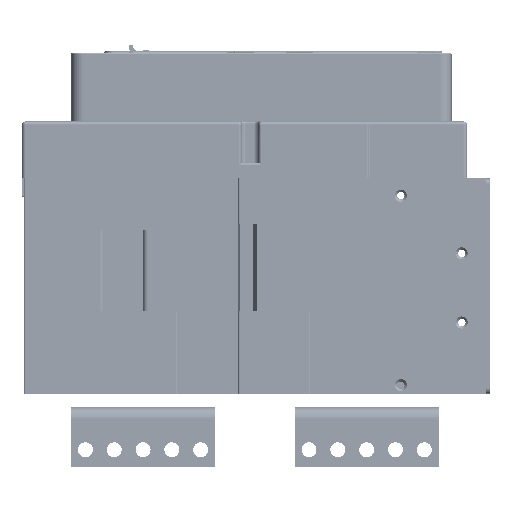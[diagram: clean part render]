
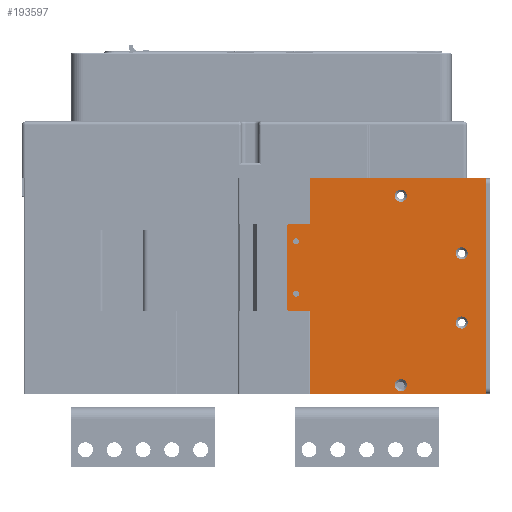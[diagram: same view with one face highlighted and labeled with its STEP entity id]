
A CAD part, left-side view. The second image highlights one B-rep face of the part: STEP entity #193597.
In plain terms, the highlighted planar face has unit normal (-1, 0, 0) as drawn and (1, 0, 0) by its records, which use the part's own axes.
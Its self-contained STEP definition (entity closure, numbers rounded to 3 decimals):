
#192635=CARTESIAN_POINT('',(3.2,158.7,91.4));
#192636=DIRECTION('',(-1.,0.,0.));
#192637=DIRECTION('',(0.,0.,1.));
#192638=AXIS2_PLACEMENT_3D('',#192635,#192636,#192637);
#192640=DIRECTION('',(0.,1.,0.));
#192641=VECTOR('',#192640,13.7);
#192642=CARTESIAN_POINT('',(3.2,160.7,21.6));
#192643=LINE('',#192642,#192641);
#192644=CARTESIAN_POINT('',(3.2,174.4,19.6));
#192645=DIRECTION('',(-1.,0.,0.));
#192646=DIRECTION('',(0.,0.,1.));
#192647=AXIS2_PLACEMENT_3D('',#192644,#192645,#192646);
#192649=DIRECTION('',(0.,0.,-1.));
#192650=VECTOR('',#192649,71.4);
#192651=CARTESIAN_POINT('',(3.2,176.4,19.6));
#192652=LINE('',#192651,#192650);
#192653=CARTESIAN_POINT('',(3.2,174.4,-51.8));
#192654=DIRECTION('',(-1.,0.,0.));
#192655=DIRECTION('',(0.,1.,0.));
#192656=AXIS2_PLACEMENT_3D('',#192653,#192654,#192655);
#192658=DIRECTION('',(0.,0.,-1.));
#192659=VECTOR('',#192658,37.6);
#192660=CARTESIAN_POINT('',(3.2,160.7,-53.8));
#192661=LINE('',#192660,#192659);
#192662=CARTESIAN_POINT('',(3.2,158.7,-91.4));
#192663=DIRECTION('',(-1.,0.,0.));
#192664=DIRECTION('',(0.,1.,0.));
#192665=AXIS2_PLACEMENT_3D('',#192662,#192663,#192664);
#192667=DIRECTION('',(0.,-1.,0.));
#192668=VECTOR('',#192667,155.);
#192669=CARTESIAN_POINT('',(3.2,158.7,-93.4));
#192670=LINE('',#192669,#192668);
#192671=CARTESIAN_POINT('',(3.2,168.2,6.6));
#192672=DIRECTION('',(1.,0.,0.));
#192673=DIRECTION('',(0.,0.,-1.));
#192674=AXIS2_PLACEMENT_3D('',#192671,#192672,#192673);
#192676=CARTESIAN_POINT('',(3.2,168.2,6.6));
#192677=DIRECTION('',(1.,0.,0.));
#192678=DIRECTION('',(0.,0.,1.));
#192679=AXIS2_PLACEMENT_3D('',#192676,#192677,#192678);
#192681=CARTESIAN_POINT('',(3.2,168.2,-38.8));
#192682=DIRECTION('',(1.,0.,0.));
#192683=DIRECTION('',(0.,0.,-1.));
#192684=AXIS2_PLACEMENT_3D('',#192681,#192682,#192683);
#192686=CARTESIAN_POINT('',(3.2,168.2,-38.8));
#192687=DIRECTION('',(1.,0.,0.));
#192688=DIRECTION('',(0.,0.,1.));
#192689=AXIS2_PLACEMENT_3D('',#192686,#192687,#192688);
#192691=CARTESIAN_POINT('',(3.2,77.4,-78.4));
#192692=DIRECTION('',(1.,0.,0.));
#192693=DIRECTION('',(0.,0.,-1.));
#192694=AXIS2_PLACEMENT_3D('',#192691,#192692,#192693);
#192696=CARTESIAN_POINT('',(3.2,77.4,-78.4));
#192697=DIRECTION('',(1.,0.,0.));
#192698=DIRECTION('',(0.,0.,1.));
#192699=AXIS2_PLACEMENT_3D('',#192696,#192697,#192698);
#192701=CARTESIAN_POINT('',(3.2,77.4,86.));
#192702=DIRECTION('',(1.,0.,0.));
#192703=DIRECTION('',(0.,0.,1.));
#192704=AXIS2_PLACEMENT_3D('',#192701,#192702,#192703);
#192706=CARTESIAN_POINT('',(3.2,77.4,86.));
#192707=DIRECTION('',(1.,0.,0.));
#192708=DIRECTION('',(0.,0.,-1.));
#192709=AXIS2_PLACEMENT_3D('',#192706,#192707,#192708);
#192711=CARTESIAN_POINT('',(3.2,24.5,31.6));
#192712=DIRECTION('',(1.,0.,0.));
#192713=DIRECTION('',(0.,0.,1.));
#192714=AXIS2_PLACEMENT_3D('',#192711,#192712,#192713);
#192716=CARTESIAN_POINT('',(3.2,24.5,31.6));
#192717=DIRECTION('',(1.,0.,0.));
#192718=DIRECTION('',(0.,0.,-1.));
#192719=AXIS2_PLACEMENT_3D('',#192716,#192717,#192718);
#192721=CARTESIAN_POINT('',(3.2,24.5,-28.4));
#192722=DIRECTION('',(1.,0.,0.));
#192723=DIRECTION('',(0.,0.,1.));
#192724=AXIS2_PLACEMENT_3D('',#192721,#192722,#192723);
#192726=CARTESIAN_POINT('',(3.2,24.5,-28.4));
#192727=DIRECTION('',(1.,0.,0.));
#192728=DIRECTION('',(0.,0.,-1.));
#192729=AXIS2_PLACEMENT_3D('',#192726,#192727,#192728);
#192731=DIRECTION('',(0.,0.,-1.));
#192732=VECTOR('',#192731,186.8);
#192733=CARTESIAN_POINT('',(3.2,3.7,93.4));
#192734=LINE('',#192733,#192732);
#192932=DIRECTION('',(0.,-1.,0.));
#192933=VECTOR('',#192932,155.);
#192934=CARTESIAN_POINT('',(3.2,158.7,93.4));
#192935=LINE('',#192934,#192933);
#192961=DIRECTION('',(0.,0.,1.));
#192962=VECTOR('',#192961,69.8);
#192963=CARTESIAN_POINT('',(3.2,160.7,21.6));
#192964=LINE('',#192963,#192962);
#192993=DIRECTION('',(0.,1.,0.));
#192994=VECTOR('',#192993,13.7);
#192995=CARTESIAN_POINT('',(3.2,160.7,-53.8));
#192996=LINE('',#192995,#192994);
#193215=CARTESIAN_POINT('',(3.2,3.7,-93.4));
#193216=VERTEX_POINT('',#193215);
#193217=CARTESIAN_POINT('',(3.2,158.7,-93.4));
#193218=VERTEX_POINT('',#193217);
#193267=CARTESIAN_POINT('',(3.2,168.2,9.2));
#193268=VERTEX_POINT('',#193267);
#193269=CARTESIAN_POINT('',(3.2,168.2,4.));
#193270=VERTEX_POINT('',#193269);
#193271=CARTESIAN_POINT('',(3.2,3.7,93.4));
#193272=VERTEX_POINT('',#193271);
#193273=CARTESIAN_POINT('',(3.2,158.7,93.4));
#193274=VERTEX_POINT('',#193273);
#193275=CARTESIAN_POINT('',(3.2,160.7,91.4));
#193276=VERTEX_POINT('',#193275);
#193277=CARTESIAN_POINT('',(3.2,160.7,21.6));
#193278=VERTEX_POINT('',#193277);
#193279=CARTESIAN_POINT('',(3.2,174.4,21.6));
#193280=VERTEX_POINT('',#193279);
#193281=CARTESIAN_POINT('',(3.2,176.4,19.6));
#193282=VERTEX_POINT('',#193281);
#193283=CARTESIAN_POINT('',(3.2,176.4,-51.8));
#193284=VERTEX_POINT('',#193283);
#193285=CARTESIAN_POINT('',(3.2,174.4,-53.8));
#193286=VERTEX_POINT('',#193285);
#193287=CARTESIAN_POINT('',(3.2,160.7,-53.8));
#193288=VERTEX_POINT('',#193287);
#193289=CARTESIAN_POINT('',(3.2,160.7,-91.4));
#193290=VERTEX_POINT('',#193289);
#193291=CARTESIAN_POINT('',(3.2,168.2,-41.4));
#193292=CARTESIAN_POINT('',(3.2,168.2,-36.2));
#193293=VERTEX_POINT('',#193291);
#193294=VERTEX_POINT('',#193292);
#193295=CARTESIAN_POINT('',(3.2,77.4,-83.65));
#193296=CARTESIAN_POINT('',(3.2,77.4,-73.15));
#193297=VERTEX_POINT('',#193295);
#193298=VERTEX_POINT('',#193296);
#193299=CARTESIAN_POINT('',(3.2,77.4,91.25));
#193300=CARTESIAN_POINT('',(3.2,77.4,80.75));
#193301=VERTEX_POINT('',#193299);
#193302=VERTEX_POINT('',#193300);
#193303=CARTESIAN_POINT('',(3.2,24.5,36.85));
#193304=CARTESIAN_POINT('',(3.2,24.5,26.35));
#193305=VERTEX_POINT('',#193303);
#193306=VERTEX_POINT('',#193304);
#193307=CARTESIAN_POINT('',(3.2,24.5,-23.15));
#193308=CARTESIAN_POINT('',(3.2,24.5,-33.65));
#193309=VERTEX_POINT('',#193307);
#193310=VERTEX_POINT('',#193308);
#193532=CARTESIAN_POINT('',(3.2,3.2,-93.4));
#193533=DIRECTION('',(1.,0.,0.));
#193534=DIRECTION('',(0.,1.,0.));
#193535=AXIS2_PLACEMENT_3D('',#193532,#193533,#193534);
#193536=PLANE('',#193535);
#193538=ORIENTED_EDGE('',*,*,#193537,.F.);
#193540=ORIENTED_EDGE('',*,*,#193539,.F.);
#193542=ORIENTED_EDGE('',*,*,#193541,.T.);
#193544=ORIENTED_EDGE('',*,*,#193543,.F.);
#193546=ORIENTED_EDGE('',*,*,#193545,.T.);
#193548=ORIENTED_EDGE('',*,*,#193547,.T.);
#193550=ORIENTED_EDGE('',*,*,#193549,.T.);
#193552=ORIENTED_EDGE('',*,*,#193551,.T.);
#193554=ORIENTED_EDGE('',*,*,#193553,.F.);
#193556=ORIENTED_EDGE('',*,*,#193555,.T.);
#193557=ORIENTED_EDGE('',*,*,#193523,.T.);
#193558=ORIENTED_EDGE('',*,*,#193428,.T.);
#193559=EDGE_LOOP('',(#193538,#193540,#193542,#193544,#193546,#193548,#193550,
#193552,#193554,#193556,#193557,#193558));
#193560=FACE_OUTER_BOUND('',#193559,.F.);
#193562=ORIENTED_EDGE('',*,*,#193561,.T.);
#193564=ORIENTED_EDGE('',*,*,#193563,.T.);
#193565=EDGE_LOOP('',(#193562,#193564));
#193566=FACE_BOUND('',#193565,.F.);
#193568=ORIENTED_EDGE('',*,*,#193567,.T.);
#193570=ORIENTED_EDGE('',*,*,#193569,.T.);
#193571=EDGE_LOOP('',(#193568,#193570));
#193572=FACE_BOUND('',#193571,.F.);
#193574=ORIENTED_EDGE('',*,*,#193573,.T.);
#193576=ORIENTED_EDGE('',*,*,#193575,.T.);
#193577=EDGE_LOOP('',(#193574,#193576));
#193578=FACE_BOUND('',#193577,.F.);
#193580=ORIENTED_EDGE('',*,*,#193579,.T.);
#193582=ORIENTED_EDGE('',*,*,#193581,.T.);
#193583=EDGE_LOOP('',(#193580,#193582));
#193584=FACE_BOUND('',#193583,.F.);
#193586=ORIENTED_EDGE('',*,*,#193585,.T.);
#193588=ORIENTED_EDGE('',*,*,#193587,.T.);
#193589=EDGE_LOOP('',(#193586,#193588));
#193590=FACE_BOUND('',#193589,.F.);
#193592=ORIENTED_EDGE('',*,*,#193591,.T.);
#193594=ORIENTED_EDGE('',*,*,#193593,.T.);
#193595=EDGE_LOOP('',(#193592,#193594));
#193596=FACE_BOUND('',#193595,.F.);
#193597=ADVANCED_FACE('',(#193560,#193566,#193572,#193578,#193584,#193590,
#193596),#193536,.T.);
#192639=CIRCLE('',#192638,2.);
#192648=CIRCLE('',#192647,2.);
#192657=CIRCLE('',#192656,2.);
#192666=CIRCLE('',#192665,2.);
#192675=CIRCLE('',#192674,2.6);
#192680=CIRCLE('',#192679,2.6);
#192685=CIRCLE('',#192684,2.6);
#192690=CIRCLE('',#192689,2.6);
#192695=CIRCLE('',#192694,5.25);
#192700=CIRCLE('',#192699,5.25);
#192705=CIRCLE('',#192704,5.25);
#192710=CIRCLE('',#192709,5.25);
#192715=CIRCLE('',#192714,5.25);
#192720=CIRCLE('',#192719,5.25);
#192725=CIRCLE('',#192724,5.25);
#192730=CIRCLE('',#192729,5.25);
#193428=EDGE_CURVE('',#193218,#193216,#192670,.T.);
#193523=EDGE_CURVE('',#193290,#193218,#192666,.T.);
#193537=EDGE_CURVE('',#193272,#193216,#192734,.T.);
#193539=EDGE_CURVE('',#193274,#193272,#192935,.T.);
#193541=EDGE_CURVE('',#193274,#193276,#192639,.T.);
#193543=EDGE_CURVE('',#193278,#193276,#192964,.T.);
#193545=EDGE_CURVE('',#193278,#193280,#192643,.T.);
#193547=EDGE_CURVE('',#193280,#193282,#192648,.T.);
#193549=EDGE_CURVE('',#193282,#193284,#192652,.T.);
#193551=EDGE_CURVE('',#193284,#193286,#192657,.T.);
#193553=EDGE_CURVE('',#193288,#193286,#192996,.T.);
#193555=EDGE_CURVE('',#193288,#193290,#192661,.T.);
#193561=EDGE_CURVE('',#193270,#193268,#192675,.T.);
#193563=EDGE_CURVE('',#193268,#193270,#192680,.T.);
#193567=EDGE_CURVE('',#193293,#193294,#192685,.T.);
#193569=EDGE_CURVE('',#193294,#193293,#192690,.T.);
#193573=EDGE_CURVE('',#193297,#193298,#192695,.T.);
#193575=EDGE_CURVE('',#193298,#193297,#192700,.T.);
#193579=EDGE_CURVE('',#193301,#193302,#192705,.T.);
#193581=EDGE_CURVE('',#193302,#193301,#192710,.T.);
#193585=EDGE_CURVE('',#193305,#193306,#192715,.T.);
#193587=EDGE_CURVE('',#193306,#193305,#192720,.T.);
#193591=EDGE_CURVE('',#193309,#193310,#192725,.T.);
#193593=EDGE_CURVE('',#193310,#193309,#192730,.T.);
